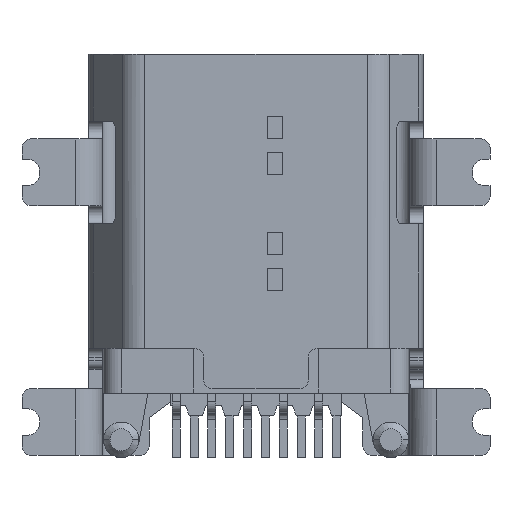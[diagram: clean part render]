
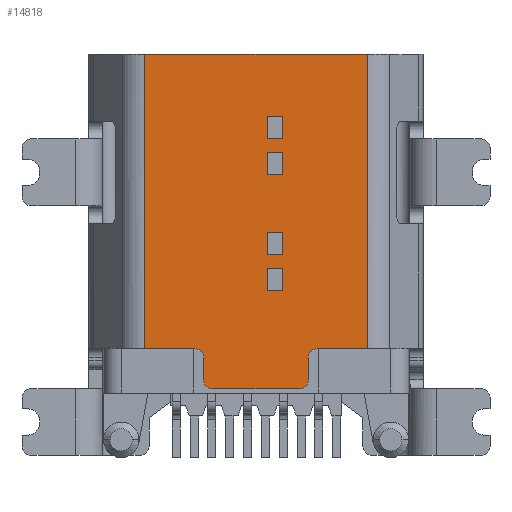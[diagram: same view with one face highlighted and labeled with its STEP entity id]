
A CAD part, front view. The second image highlights one B-rep face of the part: STEP entity #14818.
In plain terms, the highlighted planar face has unit normal (0, -1, 0).
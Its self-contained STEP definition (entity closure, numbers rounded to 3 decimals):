
#1524=DIRECTION('',(1.,0.,0.));
#1525=VECTOR('',#1524,5.001);
#1526=CARTESIAN_POINT('',(0.924,0.775,1.));
#1527=LINE('',#1526,#1525);
#1984=DIRECTION('',(0.,0.,1.));
#1985=VECTOR('',#1984,6.6);
#1986=CARTESIAN_POINT('',(5.926,0.775,-5.6));
#1987=LINE('',#1986,#1985);
#1992=CARTESIAN_POINT('',(4.4,0.775,-6.3));
#1993=DIRECTION('',(0.,-1.,0.));
#1994=DIRECTION('',(0.,0.,-1.));
#1995=AXIS2_PLACEMENT_3D('',#1992,#1993,#1994);
#1997=DIRECTION('',(1.,0.,0.));
#1998=VECTOR('',#1997,1.95);
#1999=CARTESIAN_POINT('',(2.45,0.775,-6.5));
#2000=LINE('',#1999,#1998);
#2001=CARTESIAN_POINT('',(2.45,0.775,-6.3));
#2002=DIRECTION('',(0.,-1.,0.));
#2003=DIRECTION('',(-1.,0.,0.));
#2004=AXIS2_PLACEMENT_3D('',#2001,#2002,#2003);
#2006=DIRECTION('',(0.,0.,-1.));
#2007=VECTOR('',#2006,0.5);
#2008=CARTESIAN_POINT('',(2.25,0.775,-5.8));
#2009=LINE('',#2008,#2007);
#2010=CARTESIAN_POINT('',(2.05,0.775,-5.8));
#2011=DIRECTION('',(0.,1.,0.));
#2012=DIRECTION('',(0.,0.,1.));
#2013=AXIS2_PLACEMENT_3D('',#2010,#2011,#2012);
#2015=DIRECTION('',(1.,0.,0.));
#2016=VECTOR('',#2015,1.126);
#2017=CARTESIAN_POINT('',(0.924,0.775,-5.6));
#2018=LINE('',#2017,#2016);
#2019=DIRECTION('',(1.,0.,0.));
#2020=VECTOR('',#2019,1.126);
#2021=CARTESIAN_POINT('',(4.8,0.775,-5.6));
#2022=LINE('',#2021,#2020);
#2023=CARTESIAN_POINT('',(4.8,0.775,-5.8));
#2024=DIRECTION('',(0.,1.,0.));
#2025=DIRECTION('',(-1.,0.,0.));
#2026=AXIS2_PLACEMENT_3D('',#2023,#2024,#2025);
#2060=DIRECTION('',(0.,0.,1.));
#2061=VECTOR('',#2060,0.5);
#2062=CARTESIAN_POINT('',(4.6,0.775,-6.3));
#2063=LINE('',#2062,#2061);
#2080=DIRECTION('',(0.,0.,-1.));
#2081=VECTOR('',#2080,6.6);
#2082=CARTESIAN_POINT('',(0.924,0.775,1.));
#2083=LINE('',#2082,#2081);
#2650=DIRECTION('',(0.,0.,1.));
#2651=VECTOR('',#2650,0.5);
#2652=CARTESIAN_POINT('',(3.675,0.775,-0.9));
#2653=LINE('',#2652,#2651);
#2654=DIRECTION('',(1.,0.,0.));
#2655=VECTOR('',#2654,0.35);
#2656=CARTESIAN_POINT('',(3.675,0.775,-0.4));
#2657=LINE('',#2656,#2655);
#2662=DIRECTION('',(0.,0.,-1.));
#2663=VECTOR('',#2662,0.5);
#2664=CARTESIAN_POINT('',(4.025,0.775,-0.4));
#2665=LINE('',#2664,#2663);
#2670=DIRECTION('',(-1.,0.,0.));
#2671=VECTOR('',#2670,0.35);
#2672=CARTESIAN_POINT('',(4.025,0.775,-0.9));
#2673=LINE('',#2672,#2671);
#2698=DIRECTION('',(0.,0.,1.));
#2699=VECTOR('',#2698,0.5);
#2700=CARTESIAN_POINT('',(3.675,0.775,-1.7));
#2701=LINE('',#2700,#2699);
#2706=DIRECTION('',(1.,0.,0.));
#2707=VECTOR('',#2706,0.35);
#2708=CARTESIAN_POINT('',(3.675,0.775,-1.2));
#2709=LINE('',#2708,#2707);
#2718=DIRECTION('',(0.,0.,-1.));
#2719=VECTOR('',#2718,0.5);
#2720=CARTESIAN_POINT('',(4.025,0.775,-1.2));
#2721=LINE('',#2720,#2719);
#2730=DIRECTION('',(-1.,0.,0.));
#2731=VECTOR('',#2730,0.35);
#2732=CARTESIAN_POINT('',(4.025,0.775,-1.7));
#2733=LINE('',#2732,#2731);
#2746=DIRECTION('',(0.,0.,1.));
#2747=VECTOR('',#2746,0.5);
#2748=CARTESIAN_POINT('',(3.675,0.775,-3.5));
#2749=LINE('',#2748,#2747);
#2754=DIRECTION('',(1.,0.,0.));
#2755=VECTOR('',#2754,0.35);
#2756=CARTESIAN_POINT('',(3.675,0.775,-3.));
#2757=LINE('',#2756,#2755);
#2766=DIRECTION('',(0.,0.,-1.));
#2767=VECTOR('',#2766,0.5);
#2768=CARTESIAN_POINT('',(4.025,0.775,-3.));
#2769=LINE('',#2768,#2767);
#2778=DIRECTION('',(-1.,0.,0.));
#2779=VECTOR('',#2778,0.35);
#2780=CARTESIAN_POINT('',(4.025,0.775,-3.5));
#2781=LINE('',#2780,#2779);
#2794=DIRECTION('',(0.,0.,1.));
#2795=VECTOR('',#2794,0.5);
#2796=CARTESIAN_POINT('',(3.675,0.775,-4.3));
#2797=LINE('',#2796,#2795);
#2802=DIRECTION('',(1.,0.,0.));
#2803=VECTOR('',#2802,0.35);
#2804=CARTESIAN_POINT('',(3.675,0.775,-3.8));
#2805=LINE('',#2804,#2803);
#2814=DIRECTION('',(0.,0.,-1.));
#2815=VECTOR('',#2814,0.5);
#2816=CARTESIAN_POINT('',(4.025,0.775,-3.8));
#2817=LINE('',#2816,#2815);
#2826=DIRECTION('',(-1.,0.,0.));
#2827=VECTOR('',#2826,0.35);
#2828=CARTESIAN_POINT('',(4.025,0.775,-4.3));
#2829=LINE('',#2828,#2827);
#11192=CARTESIAN_POINT('',(4.8,0.775,-5.6));
#11194=VERTEX_POINT('',#11192);
#11195=CARTESIAN_POINT('',(5.926,0.775,-5.6));
#11196=VERTEX_POINT('',#11195);
#11205=CARTESIAN_POINT('',(0.924,0.775,-5.6));
#11206=CARTESIAN_POINT('',(2.05,0.775,-5.6));
#11207=VERTEX_POINT('',#11205);
#11208=VERTEX_POINT('',#11206);
#11341=CARTESIAN_POINT('',(4.4,0.775,-6.5));
#11342=VERTEX_POINT('',#11341);
#11343=CARTESIAN_POINT('',(4.6,0.775,-6.3));
#11344=VERTEX_POINT('',#11343);
#11345=CARTESIAN_POINT('',(2.45,0.775,-6.5));
#11346=VERTEX_POINT('',#11345);
#11347=CARTESIAN_POINT('',(2.25,0.775,-6.3));
#11348=VERTEX_POINT('',#11347);
#11349=CARTESIAN_POINT('',(2.25,0.775,-5.8));
#11350=VERTEX_POINT('',#11349);
#11351=CARTESIAN_POINT('',(0.924,0.775,1.));
#11352=VERTEX_POINT('',#11351);
#11353=CARTESIAN_POINT('',(5.926,0.775,1.));
#11354=VERTEX_POINT('',#11353);
#11355=CARTESIAN_POINT('',(4.6,0.775,-5.8));
#11356=VERTEX_POINT('',#11355);
#11357=CARTESIAN_POINT('',(3.675,0.775,-0.9));
#11358=CARTESIAN_POINT('',(3.675,0.775,-0.4));
#11359=VERTEX_POINT('',#11357);
#11360=VERTEX_POINT('',#11358);
#11361=CARTESIAN_POINT('',(4.025,0.775,-0.9));
#11362=VERTEX_POINT('',#11361);
#11363=CARTESIAN_POINT('',(4.025,0.775,-0.4));
#11364=VERTEX_POINT('',#11363);
#11365=CARTESIAN_POINT('',(3.675,0.775,-1.7));
#11366=CARTESIAN_POINT('',(3.675,0.775,-1.2));
#11367=VERTEX_POINT('',#11365);
#11368=VERTEX_POINT('',#11366);
#11369=CARTESIAN_POINT('',(4.025,0.775,-1.7));
#11370=VERTEX_POINT('',#11369);
#11371=CARTESIAN_POINT('',(4.025,0.775,-1.2));
#11372=VERTEX_POINT('',#11371);
#11373=CARTESIAN_POINT('',(3.675,0.775,-3.5));
#11374=CARTESIAN_POINT('',(3.675,0.775,-3.));
#11375=VERTEX_POINT('',#11373);
#11376=VERTEX_POINT('',#11374);
#11377=CARTESIAN_POINT('',(4.025,0.775,-3.5));
#11378=VERTEX_POINT('',#11377);
#11379=CARTESIAN_POINT('',(4.025,0.775,-3.));
#11380=VERTEX_POINT('',#11379);
#11381=CARTESIAN_POINT('',(3.675,0.775,-4.3));
#11382=CARTESIAN_POINT('',(3.675,0.775,-3.8));
#11383=VERTEX_POINT('',#11381);
#11384=VERTEX_POINT('',#11382);
#11385=CARTESIAN_POINT('',(4.025,0.775,-4.3));
#11386=VERTEX_POINT('',#11385);
#11387=CARTESIAN_POINT('',(4.025,0.775,-3.8));
#11388=VERTEX_POINT('',#11387);
#14751=CARTESIAN_POINT('',(3.425,0.775,-2.75));
#14752=DIRECTION('',(0.,1.,0.));
#14753=DIRECTION('',(1.,0.,0.));
#14754=AXIS2_PLACEMENT_3D('',#14751,#14752,#14753);
#14755=PLANE('',#14754);
#14757=ORIENTED_EDGE('',*,*,#14756,.F.);
#14759=ORIENTED_EDGE('',*,*,#14758,.F.);
#14761=ORIENTED_EDGE('',*,*,#14760,.F.);
#14763=ORIENTED_EDGE('',*,*,#14762,.F.);
#14765=ORIENTED_EDGE('',*,*,#14764,.F.);
#14766=ORIENTED_EDGE('',*,*,#14059,.F.);
#14768=ORIENTED_EDGE('',*,*,#14767,.F.);
#14769=ORIENTED_EDGE('',*,*,#14212,.T.);
#14770=ORIENTED_EDGE('',*,*,#14744,.F.);
#14771=ORIENTED_EDGE('',*,*,#12837,.F.);
#14773=ORIENTED_EDGE('',*,*,#14772,.F.);
#14775=ORIENTED_EDGE('',*,*,#14774,.F.);
#14776=EDGE_LOOP('',(#14757,#14759,#14761,#14763,#14765,#14766,#14768,#14769,
#14770,#14771,#14773,#14775));
#14777=FACE_OUTER_BOUND('',#14776,.F.);
#14779=ORIENTED_EDGE('',*,*,#14778,.F.);
#14781=ORIENTED_EDGE('',*,*,#14780,.F.);
#14783=ORIENTED_EDGE('',*,*,#14782,.F.);
#14785=ORIENTED_EDGE('',*,*,#14784,.F.);
#14786=EDGE_LOOP('',(#14779,#14781,#14783,#14785));
#14787=FACE_BOUND('',#14786,.F.);
#14789=ORIENTED_EDGE('',*,*,#14788,.F.);
#14791=ORIENTED_EDGE('',*,*,#14790,.F.);
#14793=ORIENTED_EDGE('',*,*,#14792,.F.);
#14795=ORIENTED_EDGE('',*,*,#14794,.F.);
#14796=EDGE_LOOP('',(#14789,#14791,#14793,#14795));
#14797=FACE_BOUND('',#14796,.F.);
#14799=ORIENTED_EDGE('',*,*,#14798,.F.);
#14801=ORIENTED_EDGE('',*,*,#14800,.F.);
#14803=ORIENTED_EDGE('',*,*,#14802,.F.);
#14805=ORIENTED_EDGE('',*,*,#14804,.F.);
#14806=EDGE_LOOP('',(#14799,#14801,#14803,#14805));
#14807=FACE_BOUND('',#14806,.F.);
#14809=ORIENTED_EDGE('',*,*,#14808,.F.);
#14811=ORIENTED_EDGE('',*,*,#14810,.F.);
#14813=ORIENTED_EDGE('',*,*,#14812,.F.);
#14815=ORIENTED_EDGE('',*,*,#14814,.F.);
#14816=EDGE_LOOP('',(#14809,#14811,#14813,#14815));
#14817=FACE_BOUND('',#14816,.F.);
#1996=CIRCLE('',#1995,0.2);
#2005=CIRCLE('',#2004,0.2);
#2014=CIRCLE('',#2013,0.2);
#2027=CIRCLE('',#2026,0.2);
#12837=EDGE_CURVE('',#11194,#11196,#2022,.T.);
#14059=EDGE_CURVE('',#11207,#11208,#2018,.T.);
#14212=EDGE_CURVE('',#11352,#11354,#1527,.T.);
#14744=EDGE_CURVE('',#11196,#11354,#1987,.T.);
#14756=EDGE_CURVE('',#11342,#11344,#1996,.T.);
#14758=EDGE_CURVE('',#11346,#11342,#2000,.T.);
#14760=EDGE_CURVE('',#11348,#11346,#2005,.T.);
#14762=EDGE_CURVE('',#11350,#11348,#2009,.T.);
#14764=EDGE_CURVE('',#11208,#11350,#2014,.T.);
#14767=EDGE_CURVE('',#11352,#11207,#2083,.T.);
#14772=EDGE_CURVE('',#11356,#11194,#2027,.T.);
#14774=EDGE_CURVE('',#11344,#11356,#2063,.T.);
#14778=EDGE_CURVE('',#11359,#11360,#2653,.T.);
#14780=EDGE_CURVE('',#11362,#11359,#2673,.T.);
#14782=EDGE_CURVE('',#11364,#11362,#2665,.T.);
#14784=EDGE_CURVE('',#11360,#11364,#2657,.T.);
#14788=EDGE_CURVE('',#11367,#11368,#2701,.T.);
#14790=EDGE_CURVE('',#11370,#11367,#2733,.T.);
#14792=EDGE_CURVE('',#11372,#11370,#2721,.T.);
#14794=EDGE_CURVE('',#11368,#11372,#2709,.T.);
#14798=EDGE_CURVE('',#11375,#11376,#2749,.T.);
#14800=EDGE_CURVE('',#11378,#11375,#2781,.T.);
#14802=EDGE_CURVE('',#11380,#11378,#2769,.T.);
#14804=EDGE_CURVE('',#11376,#11380,#2757,.T.);
#14808=EDGE_CURVE('',#11383,#11384,#2797,.T.);
#14810=EDGE_CURVE('',#11386,#11383,#2829,.T.);
#14812=EDGE_CURVE('',#11388,#11386,#2817,.T.);
#14814=EDGE_CURVE('',#11384,#11388,#2805,.T.);
#14818=ADVANCED_FACE('',(#14777,#14787,#14797,#14807,#14817),#14755,.F.);
